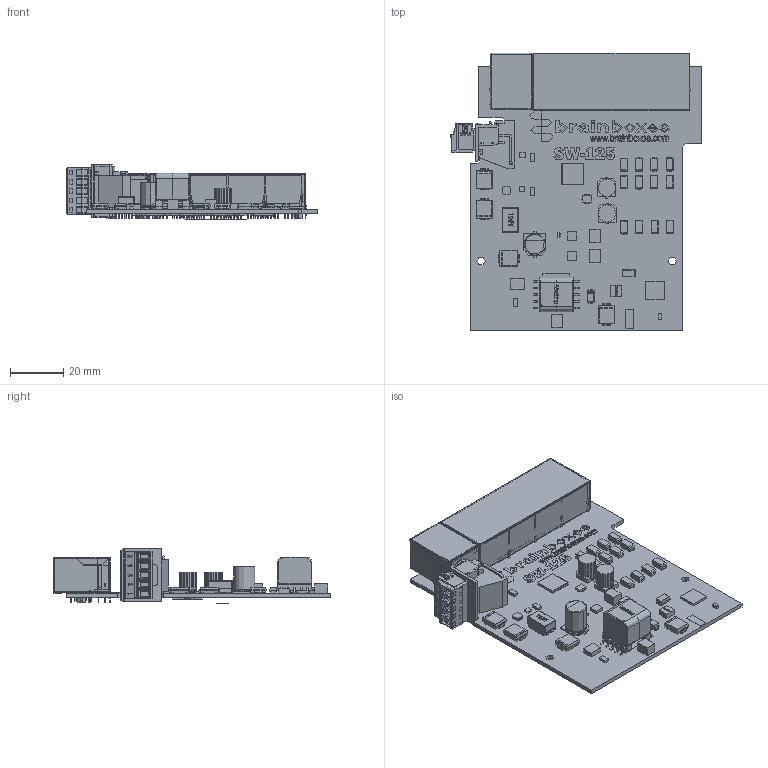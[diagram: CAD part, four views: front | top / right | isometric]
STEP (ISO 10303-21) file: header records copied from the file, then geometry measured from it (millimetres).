
FILE_DESCRIPTION(('FreeCAD Model'),'2;1');
FILE_NAME('Open CASCADE Shape Model','2023-03-16T15:50:21',('Author'),( ''),'Open CASCADE STEP processor 7.6','FreeCAD','Unknown');
FILE_SCHEMA(('AUTOMOTIVE_DESIGN { 1 0 10303 214 1 1 1 1 }'));
Products named in the file (1): For SW-125 Colour
Bounding box: 94.88 x 104.62 x 20.57 mm (x, y, z)
Volume: 31367 mm3; surface area: 59212.6 mm2
Topology: 230 solids, 248 shells, 11725 faces, 33261 edges, 21658 vertices
Faces by surface type: plane 9247, cylinder 1326, bspline 869, extrusion 185, torus 40, cone 38, sphere 16, revolution 4
Full cylindrical faces by diameter (mm): 0.5 x1, 0.8 x2, 3.81 x1
Entity records: 412592 total; most frequent: CARTESIAN_POINT 87137, ORIENTED_EDGE 66498, DIRECTION 56928, EDGE_CURVE 33249, VECTOR 28268, LINE 28083, VERTEX_POINT 21658, AXIS2_PLACEMENT_3D 14328
